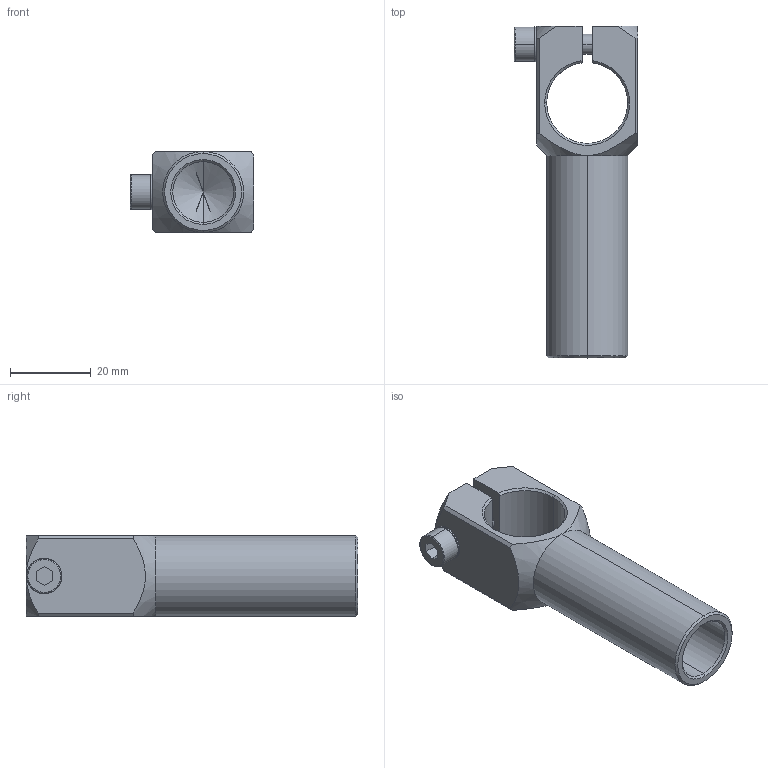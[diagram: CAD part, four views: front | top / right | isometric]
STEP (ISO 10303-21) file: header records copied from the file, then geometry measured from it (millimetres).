
FILE_DESCRIPTION (( 'STEP AP214' ), '1' );
FILE_NAME ('SCA1-2020L50T.STEP', '2023-01-11T08:31:18', ( 'Windows User' ), ( 'P R C' ), 'SwSTEP 2.0', 'SolidWorks 2019', '' );
FILE_SCHEMA (( 'AUTOMOTIVE_DESIGN' ));
Length unit declared in the file: millimetre
Products named in the file (1): SCA1-2020L50T
Bounding box: 30.5 x 82 x 20 mm (x, y, z)
Volume: 17001.5 mm3; surface area: 10556 mm2
Topology: 3 solids, 3 shells, 256 faces, 722 edges, 471 vertices
Faces by surface type: plane 211, cylinder 23, cone 20, bspline 2
Entity records: 11412 total; most frequent: CARTESIAN_POINT 1741, DIRECTION 1454, ORIENTED_EDGE 1440, EDGE_CURVE 720, AXIS2_PLACEMENT_3D 501, VERTEX_POINT 471, LINE 452, VECTOR 452
